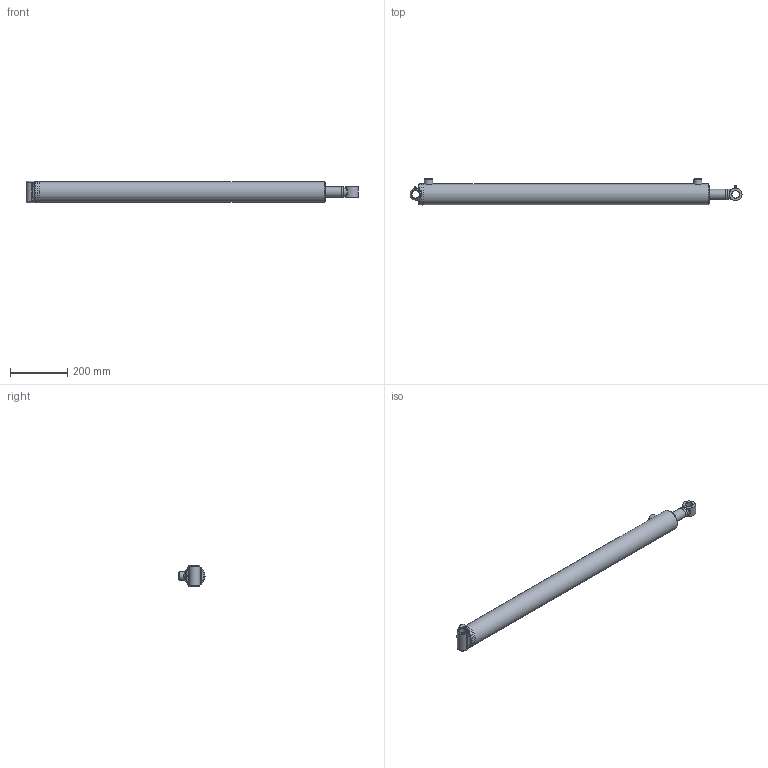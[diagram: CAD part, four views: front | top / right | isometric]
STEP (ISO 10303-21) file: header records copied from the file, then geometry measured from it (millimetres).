
FILE_DESCRIPTION(/* description */ ('Ø2.50 X 36.00 DA'),/* implementation_level */ '2;1');
FILE_NAME(/* name */ 'result.stp',/* time_stamp */ '2024-07-12T20:45:48Z',/* author */ ('AJC'),/* organization */ ('PRINCE MANUFACTURING'),/* preprocessor_version */ 'ST-DEVELOPER v20',/* originating_system */ 'Autodesk Inventor 2024',/* authorisation */ '');
FILE_SCHEMA (('AUTOMOTIVE_DESIGN { 1 0 10303 214 3 1 1 }'));
Length unit declared in the file: inch
Products named in the file (21): PC2536013A00-440XYXA; 0613-XYSF000-39237; 0513-T-39237; 161300230; 200015602; 06Weld1_C360; 0713-P-075; 220000208; 0813-G-138; 230025103; 230025003; 240000018; 240061330; 240000330; 0207A-FAW0-42250XA; 0107A-FAW0-42250; 210400812; 02Weld_C360; 240037106; 250014137; 270010020
Assembly tree (22 placements, depth 3):
  PC2536013A00-440XYXA
    0613-XYSF000-39237
      0513-T-39237
      161300230
      200015602  x2
      06Weld1_C360
    0713-P-075
    220000208
    0813-G-138
    230025103
    230025003
    240000018
    240061330
    240000330
    0207A-FAW0-42250XA
      0107A-FAW0-42250
      210400812
      02Weld_C360
    240037106
    250014137
    270010020  x2
Bounding box: 1159.31 x 91.34 x 76.2 mm (x, y, z)
Volume: 2331903.1 mm3; surface area: 663822.6 mm2
Topology: 25 solids, 25 shells, 554 faces, 1338 edges, 857 vertices
Faces by surface type: bspline 155, plane 140, torus 86, cone 86, cylinder 83, sphere 4
Full cylindrical faces by diameter (mm): 2.143 x4, 3.175 x1, 5.359 x2, 6.35 x2, 9.525 x2, 12.649 x1, 12.7 x1, 12.725 x1, 17.323 x3, 18.999 x1, 19.126 x1, 21.615 x1, 25.781 x2, 28.575 x2, 34.925 x1, 35.001 x2, 35.56 x2, 36.957 x1, 40.64 x1, 41.3 x1, 44.45 x1, 46.101 x2, 47.625 x2, 50.8 x2, 54.077 x2, 54.813 x2, 59.931 x2, 60.071 x1, 60.096 x4, 62.886 x2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
Entity records: 32494 total; most frequent: CARTESIAN_POINT 20016, ORIENTED_EDGE 2458, DIRECTION 2131, EDGE_CURVE 1229, AXIS2_PLACEMENT_3D 894, VERTEX_POINT 796, EDGE_LOOP 589, FACE_OUTER_BOUND 510
